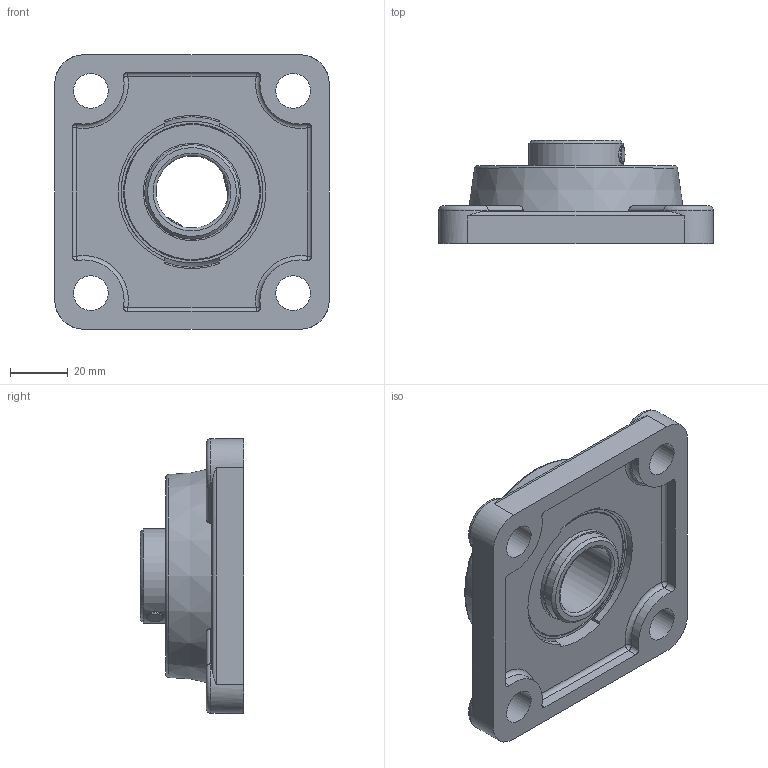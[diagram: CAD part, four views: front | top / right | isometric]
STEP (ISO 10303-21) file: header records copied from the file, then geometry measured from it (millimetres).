
FILE_DESCRIPTION(/* description */ (''),/* implementation_level */ '2;1');
FILE_NAME(/* name */ 'C:\MOJE SUBORY\03_Doplnenie 3D modelov\fgc\FGC205.stp',/* time_stamp */ '2020-12-10T08:33:26+01:00',/* author */ ('OUPIONTEKM'),/* organization */ (''),/* preprocessor_version */ 'ST-DEVELOPER v18.1',/* originating_system */ 'Autodesk Inventor 2021',/* authorisation */ '');
FILE_SCHEMA (('AUTOMOTIVE_DESIGN { 1 0 10303 214 3 1 1 }'));
Length unit declared in the file: millimetre
Products named in the file (3): FGC208; FG208; UC205
Assembly tree (2 placements, depth 2):
  FGC208
    FG208
    UC205
Bounding box: 95 x 35.8 x 95 mm (x, y, z)
Volume: 112175.6 mm3; surface area: 53485.2 mm2
Topology: 19 solids, 19 shells, 234 faces, 690 edges, 448 vertices
Faces by surface type: plane 90, cylinder 73, sphere 51, torus 13, cone 7
Full cylindrical faces by diameter (mm): 1.8 x2, 6 x4, 12 x4, 25 x1, 32.666 x6, 33.666 x2, 36 x2, 41 x2, 44.334 x2, 46.734 x2, 47.334 x4, 51.143 x1, 54.209 x1
Entity records: 9415 total; most frequent: CARTESIAN_POINT 3067, DIRECTION 1400, ORIENTED_EDGE 1276, EDGE_CURVE 638, AXIS2_PLACEMENT_3D 625, VERTEX_POINT 448, CIRCLE 386, EDGE_LOOP 274
